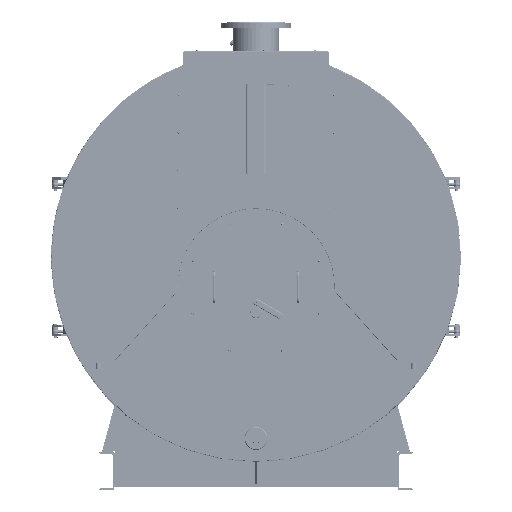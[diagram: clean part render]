
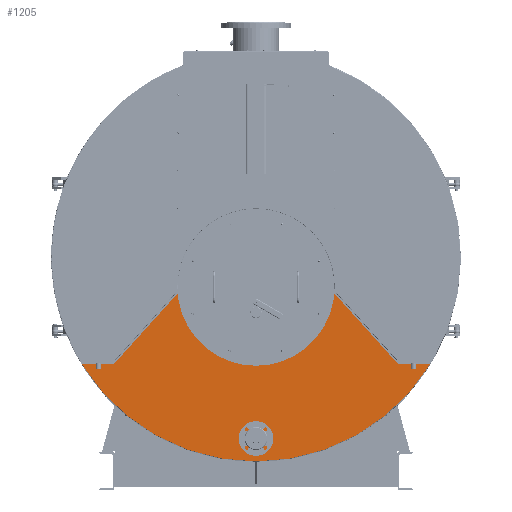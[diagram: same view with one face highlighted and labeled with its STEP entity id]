
A CAD part, left-side view. The second image highlights one B-rep face of the part: STEP entity #1205.
In plain terms, the highlighted planar face has unit normal (-1, 0, 0).
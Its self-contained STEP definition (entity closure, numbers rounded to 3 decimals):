
#1205=ADVANCED_FACE('',(#9671,#9673),#9675,.T.);
#9671=FACE_BOUND('',#9672,.T.);
#9672=EDGE_LOOP('',(#58828,#58829,#58830,#58831,#58832,#58833,#58834,#58835));
#9673=FACE_BOUND('',#9674,.T.);
#9674=EDGE_LOOP('',(#58836));
#9675=PLANE('',#9676);
#9676=AXIS2_PLACEMENT_3D('',#9677,#9678,#9679);
#9677=CARTESIAN_POINT('',(-745.55,0.,340.));
#9678=DIRECTION('',(-1.,0.,0.));
#9679=DIRECTION('',(0.,-1.,0.));
#58828=ORIENTED_EDGE('',*,*,#84197,.T.);
#58829=ORIENTED_EDGE('',*,*,#84198,.T.);
#58830=ORIENTED_EDGE('',*,*,#83560,.T.);
#58831=ORIENTED_EDGE('',*,*,#84199,.T.);
#58832=ORIENTED_EDGE('',*,*,#83552,.F.);
#58833=ORIENTED_EDGE('',*,*,#84195,.F.);
#58834=ORIENTED_EDGE('',*,*,#84200,.F.);
#58835=ORIENTED_EDGE('',*,*,#84201,.F.);
#58836=ORIENTED_EDGE('',*,*,#84202,.F.);
#83552=EDGE_CURVE('',#96989,#96991,#96992,.T.);
#83560=EDGE_CURVE('',#97005,#97003,#97006,.T.);
#84195=EDGE_CURVE('',#98085,#96989,#98086,.T.);
#84197=EDGE_CURVE('',#98088,#98089,#98090,.F.);
#84198=EDGE_CURVE('',#98089,#97005,#98091,.T.);
#84199=EDGE_CURVE('',#97003,#96991,#98092,.F.);
#84200=EDGE_CURVE('',#98093,#98085,#98094,.F.);
#84201=EDGE_CURVE('',#98088,#98093,#98095,.T.);
#84202=EDGE_CURVE('',#98096,#98096,#98097,.T.);
#96989=VERTEX_POINT('',#120716);
#96991=VERTEX_POINT('',#120720);
#96992=LINE('',#120721,#120722);
#97003=VERTEX_POINT('',#120801);
#97005=VERTEX_POINT('',#120859);
#97006=LINE('',#120860,#120861);
#98085=VERTEX_POINT('',#125258);
#98086=LINE('',#125259,#125260);
#98088=VERTEX_POINT('',#125265);
#98089=VERTEX_POINT('',#125266);
#98090=LINE('',#125267,#125268);
#98091=LINE('',#125270,#125271);
#98092=CIRCLE('',#125273,974.);
#98093=VERTEX_POINT('',#125277);
#98094=LINE('',#125278,#125279);
#98095=CIRCLE('',#125281,350.);
#98096=VERTEX_POINT('',#125285);
#98097=CIRCLE('',#125286,35.);
#120716=CARTESIAN_POINT('',(-745.55,-675.174,-170.));
#120720=CARTESIAN_POINT('',(-745.55,-829.805,-170.));
#120721=CARTESIAN_POINT('',(-745.55,-675.174,-170.));
#120722=VECTOR('',#120723,1.);
#120723=DIRECTION('',(0.,-1.,0.));
#120801=CARTESIAN_POINT('',(-745.55,829.805,-170.));
#120859=CARTESIAN_POINT('',(-745.55,675.174,-170.));
#120860=CARTESIAN_POINT('',(-745.55,675.174,-170.));
#120861=VECTOR('',#120862,1.);
#120862=DIRECTION('',(0.,1.,0.));
#125258=CARTESIAN_POINT('',(-745.55,-359.694,180.376));
#125259=CARTESIAN_POINT('',(-745.55,-359.694,180.376));
#125260=VECTOR('',#125261,1.);
#125261=DIRECTION('',(0.,-0.669,-0.743));
#125265=CARTESIAN_POINT('',(-745.55,349.694,180.376));
#125266=CARTESIAN_POINT('',(-745.55,359.694,180.376));
#125267=CARTESIAN_POINT('',(-745.55,359.694,180.376));
#125268=VECTOR('',#125269,1.);
#125269=DIRECTION('',(0.,-1.,0.));
#125270=CARTESIAN_POINT('',(-745.55,359.694,180.376));
#125271=VECTOR('',#125272,1.);
#125272=DIRECTION('',(0.,0.669,-0.743));
#125273=AXIS2_PLACEMENT_3D('',#125274,#125275,#125276);
#125274=CARTESIAN_POINT('',(-745.55,0.,340.));
#125275=DIRECTION('',(1.,0.,0.));
#125276=DIRECTION('',(0.,-0.852,-0.524));
#125277=CARTESIAN_POINT('',(-745.55,-349.694,180.376));
#125278=CARTESIAN_POINT('',(-745.55,-359.694,180.376));
#125279=VECTOR('',#125280,1.);
#125280=DIRECTION('',(0.,1.,0.));
#125281=AXIS2_PLACEMENT_3D('',#125282,#125283,#125284);
#125282=CARTESIAN_POINT('',(-745.55,0.,195.));
#125283=DIRECTION('',(-1.,0.,0.));
#125284=DIRECTION('',(0.,0.999,-0.042));
#125285=CARTESIAN_POINT('',(-745.55,0.,-490.));
#125286=AXIS2_PLACEMENT_3D('',#125287,#125288,#125289);
#125287=CARTESIAN_POINT('',(-745.55,0.,-525.));
#125288=DIRECTION('',(-1.,0.,0.));
#125289=DIRECTION('',(0.,-1.,0.));
